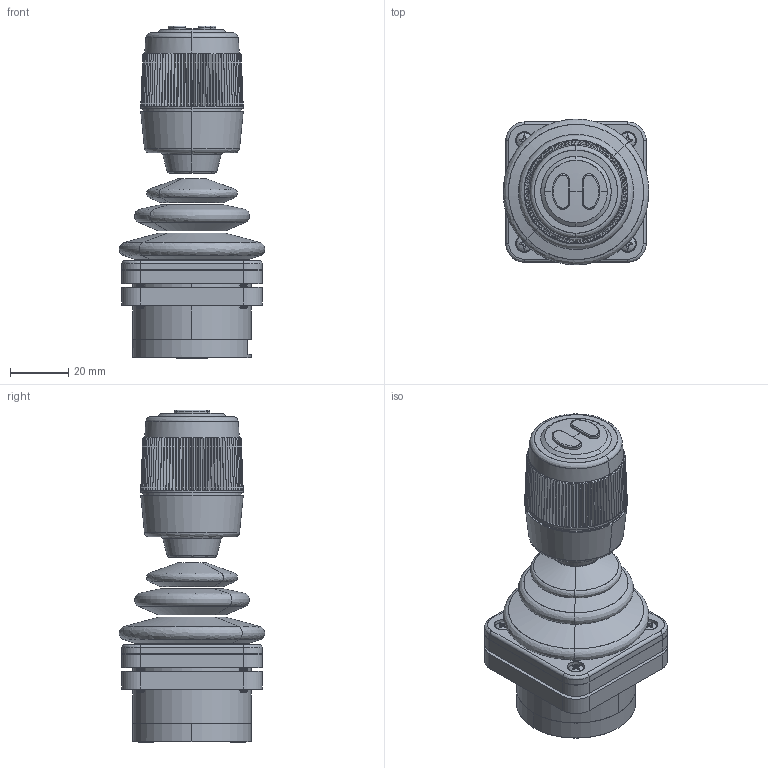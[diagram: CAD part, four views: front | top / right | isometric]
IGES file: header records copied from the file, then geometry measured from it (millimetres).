
Start section: SolidWorks IGES file using analytic representation for surfaces
Global section: file name: S:\ME\! HF\CAD\HF-45S11.IGS; native system: SolidWorks 2012; preprocessor: SolidWorks 2012; author: Shaun; date: 120703.145819; units: inch
Bounding box: 50.11 x 50.13 x 114.28 mm (x, y, z)
Surface area: 33079 mm2 (no closed solid volume)
Topology: 0 solids, 0 shells, 856 faces, 11320 edges, 11319 vertices
Faces by surface type: bspline 454, revolution 402
